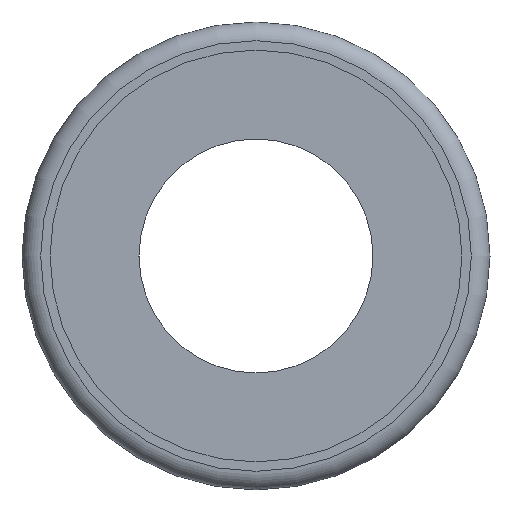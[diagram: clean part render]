
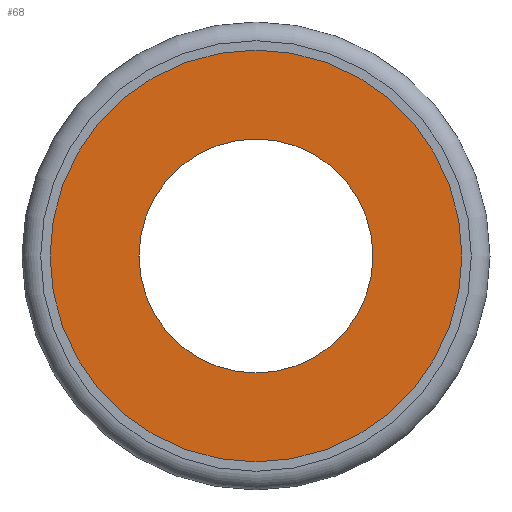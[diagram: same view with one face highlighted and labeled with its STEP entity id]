
A CAD part, left-side view. The second image highlights one B-rep face of the part: STEP entity #68.
In plain terms, the highlighted planar face has unit normal (-1, 0, 0).
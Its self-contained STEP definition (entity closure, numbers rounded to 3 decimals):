
#68 = ADVANCED_FACE( '', ( #147, #148 ), #149, .T. );
#147 = FACE_BOUND( '', #226, .T. );
#148 = FACE_OUTER_BOUND( '', #227, .T. );
#149 = PLANE( '', #228 );
#226 = EDGE_LOOP( '', ( #325 ) );
#227 = EDGE_LOOP( '', ( #326 ) );
#228 = AXIS2_PLACEMENT_3D( '', #327, #328, #329 );
#325 = ORIENTED_EDGE( '', *, *, #385, .F. );
#326 = ORIENTED_EDGE( '', *, *, #364, .T. );
#327 = CARTESIAN_POINT( '', ( 0.75, 3.45, 0. ) );
#328 = DIRECTION( '', ( -1., 0., 0. ) );
#329 = DIRECTION( '', ( 0., 1., 0. ) );
#364 = EDGE_CURVE( '', #406, #406, #407, .T. );
#385 = EDGE_CURVE( '', #438, #438, #439, .T. );
#406 = VERTEX_POINT( '', #460 );
#407 = CIRCLE( '', #461, 4.4 );
#438 = VERTEX_POINT( '', #492 );
#439 = CIRCLE( '', #493, 2.5 );
#460 = CARTESIAN_POINT( '', ( 0.75, 4.4, 0. ) );
#461 = AXIS2_PLACEMENT_3D( '', #516, #517, #518 );
#492 = CARTESIAN_POINT( '', ( 0.75, 2.5, 0. ) );
#493 = AXIS2_PLACEMENT_3D( '', #549, #550, #551 );
#516 = CARTESIAN_POINT( '', ( 0.75, 0., 0. ) );
#517 = DIRECTION( '', ( -1., 0., 0. ) );
#518 = DIRECTION( '', ( 0., 1., 0. ) );
#549 = CARTESIAN_POINT( '', ( 0.75, 0., 0. ) );
#550 = DIRECTION( '', ( -1., 0., 0. ) );
#551 = DIRECTION( '', ( 0., 1., 0. ) );
